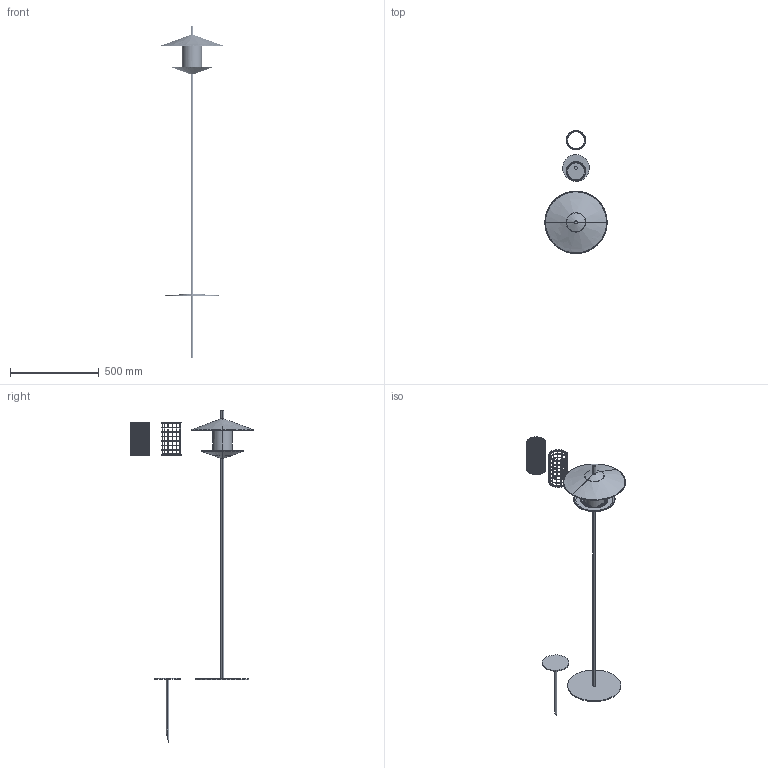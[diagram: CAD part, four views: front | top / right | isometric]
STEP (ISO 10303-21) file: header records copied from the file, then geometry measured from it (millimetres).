
FILE_DESCRIPTION(/* description */ (''),/* implementation_level */ '2;1');
FILE_NAME(/* name */ 'Ori_Floor standing_Bird feeder',/* time_stamp */ '2026-10-05T17:42:40+02:00',/* author */ (''),/* organization */ (''),/* preprocessor_version */ 'ST-DEVELOPER v16.5',/* originating_system */ 'Rhino 7.38',/* authorisation */ '');
FILE_SCHEMA (('CONFIG_CONTROL_DESIGN'));
Length unit declared in the file: millimetre
Products named in the file (9): Document; WDC6750_--ORO - LOGO FOTOINCISO_MODEL; WDC6749_--ORI - FORATURA BASE STRAINER_MODEL; Y401001370_--ORI - DISTRIBUTORE TRASP.; WAP9932_--ORI - BIG NET _ ANELLI_MODEL; Y102020242_--ORI - BIG NET; Y104006043_--ORI - ANELLO RETE; WAP9922_--ORI - SMALL NET _ ANELLI_MODEL; Y102020243_--ORI - SMALL NET
Assembly tree (11 placements, depth 3):
  Document
    WDC6750_--ORO - LOGO FOTOINCISO_MODEL
      WDC6749_--ORI - FORATURA BASE STRAINER_MODEL
    Y401001370_--ORI - DISTRIBUTORE TRASP.
    WAP9932_--ORI - BIG NET _ ANELLI_MODEL
      Y102020242_--ORI - BIG NET
      Y104006043_--ORI - ANELLO RETE  x2
    WAP9922_--ORI - SMALL NET _ ANELLI_MODEL
      Y102020243_--ORI - SMALL NET
      Y104006043_--ORI - ANELLO RETE  x2
Bounding box: 349.98 x 691.76 x 1868.82 mm (x, y, z)
Volume: 1338585.8 mm3; surface area: 980742.8 mm2
Topology: 116 solids, 120 shells, 786 faces, 1875 edges, 1271 vertices
Faces by surface type: cylinder 410, plane 200, bspline 176
Entity records: 28541 total; most frequent: CARTESIAN_POINT 15784, ORIENTED_EDGE 3620, EDGE_CURVE 1818, VERTEX_POINT 1231, EDGE_LOOP 985, ADVANCED_FACE 759, FACE_OUTER_BOUND 759, DIRECTION 639
